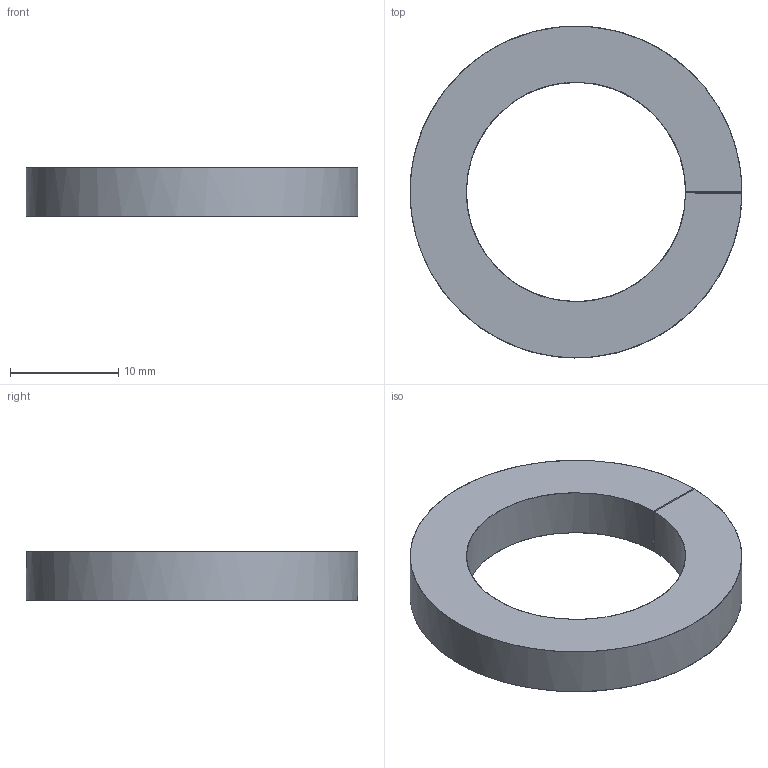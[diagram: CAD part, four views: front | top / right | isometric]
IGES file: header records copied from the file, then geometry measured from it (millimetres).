
Global section: file name: E:\UnigraphicsGraphicData\MISUMI_PRESS-PARTS\IGES\3d_cbw20_06370_r00.igs; native system: NX V5.0; preprocessor: UGS NX IGES V5.0; author: MISUMI; date: 20110105.160204; units: millimetre
Bounding box: 30.6 x 30.6 x 4.5 mm (x, y, z)
Surface area: 1592.3 mm2 (no closed solid volume)
Topology: 0 solids, 0 shells, 6 faces, 68 edges, 68 vertices
Faces by surface type: bspline 6
